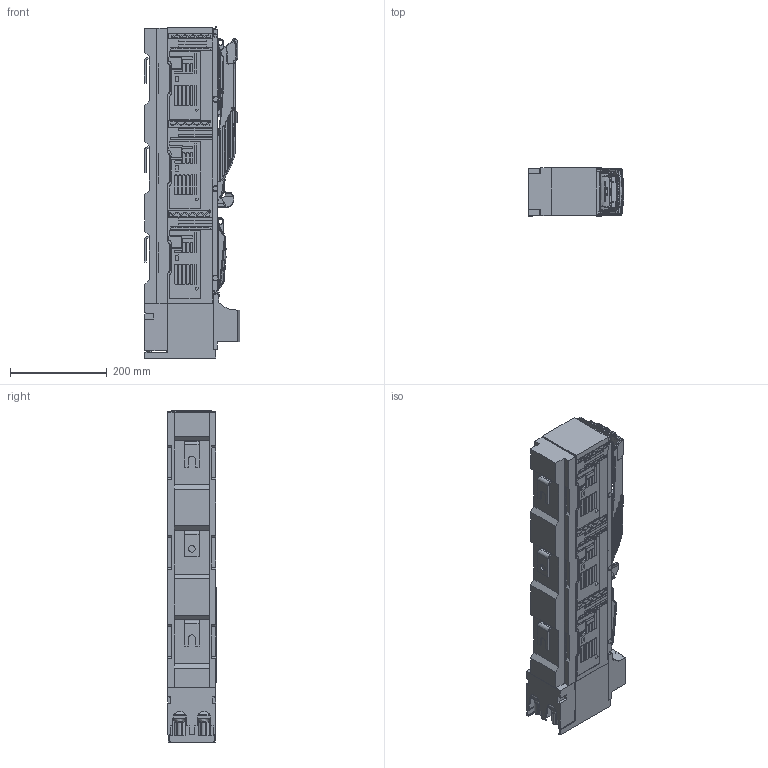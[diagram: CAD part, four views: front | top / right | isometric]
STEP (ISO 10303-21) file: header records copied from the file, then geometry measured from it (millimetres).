
FILE_DESCRIPTION(/* description */ (''),/* implementation_level */ '2;1');
FILE_NAME(/* name */ 'smartARS 2-6-2V pro.stp',/* time_stamp */ '2018-07-16T09:54:07+02:00',/* author */ (''),/* organization */ (''),/* preprocessor_version */ 'ST-DEVELOPER v16',/* originating_system */ 'SIEMENS PLM Software NX 10.0',/* authorisation */ '');
FILE_SCHEMA (('AUTOMOTIVE_DESIGN { 1 0 10303 214 3 1 1 1 }'));
Products named in the file (1): 710_0AD4EC05y3jb
Bounding box: 197.08 x 100.23 x 686.8 mm (x, y, z)
Volume: 8647896.2 mm3; surface area: 699545.2 mm2
Topology: 1 solids, 19 shells, 7336 faces, 19551 edges, 12299 vertices
Faces by surface type: plane 2967, bspline 2362, cylinder 1034, extrusion 463, torus 201, cone 160, sphere 147, revolution 2
Full cylindrical faces by diameter (mm): 3 x4, 3.5 x4, 3.7 x4, 6.5 x1, 8 x1, 9.5 x4, 9.6 x2, 14 x1
Entity records: 367168 total; most frequent: CARTESIAN_POINT 169823, ORIENTED_EDGE 38704, DIRECTION 26362, EDGE_CURVE 19352, VERTEX_POINT 12284, VECTOR 9136, LINE 8673, AXIS2_PLACEMENT_3D 8612
